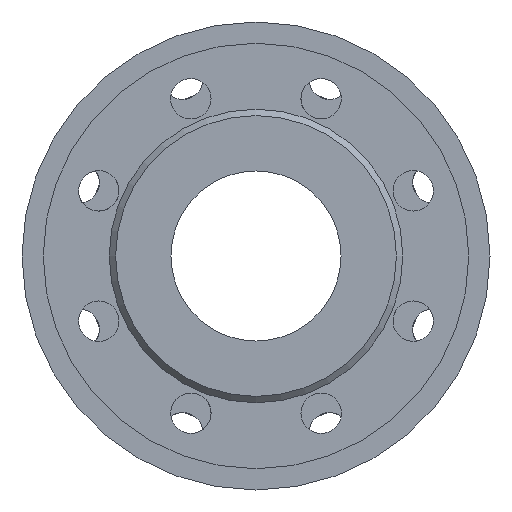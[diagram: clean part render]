
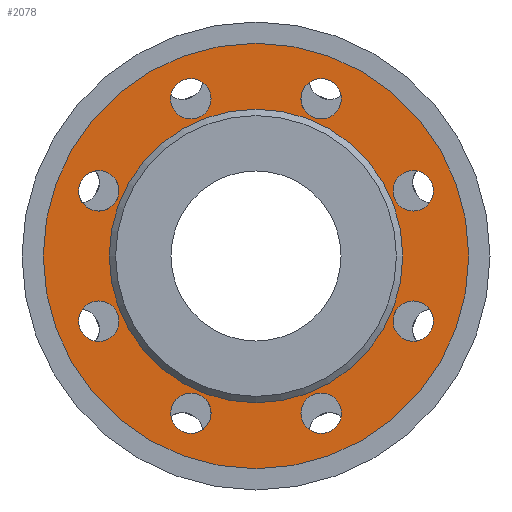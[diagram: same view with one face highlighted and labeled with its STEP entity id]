
A CAD part, left-side view. The second image highlights one B-rep face of the part: STEP entity #2078.
In plain terms, the highlighted planar face has unit normal (-1, 0, 0).
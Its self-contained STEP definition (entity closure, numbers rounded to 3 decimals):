
#24 = EDGE_LOOP ( 'NONE', ( #1020 ) ) ;
#43 = CIRCLE ( 'NONE', #1326, 9.5 ) ;
#97 = CIRCLE ( 'NONE', #1551, 9.5 ) ;
#103 = EDGE_LOOP ( 'NONE', ( #2317 ) ) ;
#135 = AXIS2_PLACEMENT_3D ( 'NONE', #1415, #259, #821 ) ;
#141 = PLANE ( 'NONE',  #1657 ) ;
#189 = CARTESIAN_POINT ( 'NONE',  ( 3., 30.615, -73.91 ) ) ;
#218 = EDGE_CURVE ( 'NONE', #1730, #1730, #1291, .T. ) ;
#231 = EDGE_LOOP ( 'NONE', ( #481 ) ) ;
#259 = DIRECTION ( 'NONE',  ( -1., 0., 0. ) ) ;
#270 = CARTESIAN_POINT ( 'NONE',  ( 3., 30.615, 73.91 ) ) ;
#315 = DIRECTION ( 'NONE',  ( -1., 0., 0. ) ) ;
#317 = EDGE_LOOP ( 'NONE', ( #2055 ) ) ;
#339 = CARTESIAN_POINT ( 'NONE',  ( 3., -83.41, 30.615 ) ) ;
#343 = EDGE_LOOP ( 'NONE', ( #2187 ) ) ;
#364 = EDGE_LOOP ( 'NONE', ( #1081 ) ) ;
#381 = VERTEX_POINT ( 'NONE', #2239 ) ;
#396 = VERTEX_POINT ( 'NONE', #2570 ) ;
#481 = ORIENTED_EDGE ( 'NONE', *, *, #780, .F. ) ;
#531 = DIRECTION ( 'NONE',  ( 0., -0.707, -0.707 ) ) ;
#689 = FACE_BOUND ( 'NONE', #343, .T. ) ;
#715 = CARTESIAN_POINT ( 'NONE',  ( 3., 69., 0. ) ) ;
#735 = EDGE_CURVE ( 'NONE', #1186, #1186, #2515, .T. ) ;
#736 = DIRECTION ( 'NONE',  ( 0., 0.707, 0.707 ) ) ;
#740 = VERTEX_POINT ( 'NONE', #986 ) ;
#780 = EDGE_CURVE ( 'NONE', #396, #396, #2300, .T. ) ;
#812 = DIRECTION ( 'NONE',  ( -1., 0., 0. ) ) ;
#814 = DIRECTION ( 'NONE',  ( 0., 0., 1. ) ) ;
#819 = EDGE_CURVE ( 'NONE', #2362, #2362, #97, .T. ) ;
#821 = DIRECTION ( 'NONE',  ( 0., -1., 0. ) ) ;
#830 = CARTESIAN_POINT ( 'NONE',  ( 3., -30.615, -83.41 ) ) ;
#844 = CARTESIAN_POINT ( 'NONE',  ( 3., 0., 69. ) ) ;
#865 = EDGE_LOOP ( 'NONE', ( #2017 ) ) ;
#883 = DIRECTION ( 'NONE',  ( -1., 0., 0. ) ) ;
#885 = FACE_BOUND ( 'NONE', #2063, .T. ) ;
#896 = FACE_BOUND ( 'NONE', #1648, .T. ) ;
#924 = AXIS2_PLACEMENT_3D ( 'NONE', #270, #1253, #1851 ) ;
#931 = AXIS2_PLACEMENT_3D ( 'NONE', #1296, #315, #1891 ) ;
#935 = EDGE_CURVE ( 'NONE', #2166, #2166, #1838, .T. ) ;
#938 = FACE_BOUND ( 'NONE', #317, .T. ) ;
#975 = CARTESIAN_POINT ( 'NONE',  ( 3., 0., 100. ) ) ;
#986 = CARTESIAN_POINT ( 'NONE',  ( 3., 37.332, -80.628 ) ) ;
#1020 = ORIENTED_EDGE ( 'NONE', *, *, #819, .F. ) ;
#1071 = EDGE_CURVE ( 'NONE', #740, #740, #2258, .T. ) ;
#1081 = ORIENTED_EDGE ( 'NONE', *, *, #735, .F. ) ;
#1084 = DIRECTION ( 'NONE',  ( -1., 0., 0. ) ) ;
#1090 = FACE_BOUND ( 'NONE', #364, .T. ) ;
#1102 = DIRECTION ( 'NONE',  ( 0., 0., -1. ) ) ;
#1133 = CARTESIAN_POINT ( 'NONE',  ( 3., 83.41, -30.615 ) ) ;
#1186 = VERTEX_POINT ( 'NONE', #339 ) ;
#1237 = EDGE_CURVE ( 'NONE', #381, #381, #2430, .T. ) ;
#1253 = DIRECTION ( 'NONE',  ( -1., 0., 0. ) ) ;
#1269 = CARTESIAN_POINT ( 'NONE',  ( 3., -73.91, -30.615 ) ) ;
#1291 = CIRCLE ( 'NONE', #2513, 100. ) ;
#1296 = CARTESIAN_POINT ( 'NONE',  ( 3., 73.91, -30.615 ) ) ;
#1321 = ORIENTED_EDGE ( 'NONE', *, *, #935, .F. ) ;
#1326 = AXIS2_PLACEMENT_3D ( 'NONE', #2299, #1084, #736 ) ;
#1389 = DIRECTION ( 'NONE',  ( -1., 0., 0. ) ) ;
#1415 = CARTESIAN_POINT ( 'NONE',  ( 3., -73.91, 30.615 ) ) ;
#1520 = DIRECTION ( 'NONE',  ( -1., 0., 0. ) ) ;
#1521 = FACE_BOUND ( 'NONE', #24, .T. ) ;
#1551 = AXIS2_PLACEMENT_3D ( 'NONE', #1269, #883, #531 ) ;
#1585 = CARTESIAN_POINT ( 'NONE',  ( 3., -80.628, -37.332 ) ) ;
#1599 = VERTEX_POINT ( 'NONE', #844 ) ;
#1607 = EDGE_CURVE ( 'NONE', #2410, #2410, #2500, .T. ) ;
#1637 = CARTESIAN_POINT ( 'NONE',  ( 3., 80.628, 37.332 ) ) ;
#1648 = EDGE_LOOP ( 'NONE', ( #1321 ) ) ;
#1657 = AXIS2_PLACEMENT_3D ( 'NONE', #715, #2533, #1102 ) ;
#1661 = CIRCLE ( 'NONE', #1905, 69. ) ;
#1730 = VERTEX_POINT ( 'NONE', #975 ) ;
#1757 = EDGE_CURVE ( 'NONE', #1599, #1599, #1661, .T. ) ;
#1838 = CIRCLE ( 'NONE', #931, 9.5 ) ;
#1851 = DIRECTION ( 'NONE',  ( 0., 0., 1. ) ) ;
#1882 = FACE_BOUND ( 'NONE', #865, .T. ) ;
#1891 = DIRECTION ( 'NONE',  ( 0., 1., 0. ) ) ;
#1903 = FACE_BOUND ( 'NONE', #231, .T. ) ;
#1905 = AXIS2_PLACEMENT_3D ( 'NONE', #2527, #812, #2402 ) ;
#1951 = EDGE_LOOP ( 'NONE', ( #2508 ) ) ;
#1970 = ORIENTED_EDGE ( 'NONE', *, *, #2387, .F. ) ;
#2017 = ORIENTED_EDGE ( 'NONE', *, *, #1607, .F. ) ;
#2050 = DIRECTION ( 'NONE',  ( 0., 0., -1. ) ) ;
#2055 = ORIENTED_EDGE ( 'NONE', *, *, #1237, .F. ) ;
#2063 = EDGE_LOOP ( 'NONE', ( #1970 ) ) ;
#2078 = ADVANCED_FACE ( 'NONE', ( #1903, #1090, #1521, #1882, #689, #896, #885, #938, #2087, #2279 ), #141, .F. ) ;
#2087 = FACE_BOUND ( 'NONE', #1951, .T. ) ;
#2095 = AXIS2_PLACEMENT_3D ( 'NONE', #2426, #1520, #2098 ) ;
#2098 = DIRECTION ( 'NONE',  ( 0., -0.707, 0.707 ) ) ;
#2134 = AXIS2_PLACEMENT_3D ( 'NONE', #189, #1389, #2188 ) ;
#2166 = VERTEX_POINT ( 'NONE', #1133 ) ;
#2172 = DIRECTION ( 'NONE',  ( -1., 0., 0. ) ) ;
#2187 = ORIENTED_EDGE ( 'NONE', *, *, #1071, .F. ) ;
#2188 = DIRECTION ( 'NONE',  ( 0., 0.707, -0.707 ) ) ;
#2215 = VERTEX_POINT ( 'NONE', #1637 ) ;
#2239 = CARTESIAN_POINT ( 'NONE',  ( 3., 30.615, 83.41 ) ) ;
#2258 = CIRCLE ( 'NONE', #2134, 9.5 ) ;
#2279 = FACE_OUTER_BOUND ( 'NONE', #103, .T. ) ;
#2299 = CARTESIAN_POINT ( 'NONE',  ( 3., 73.91, 30.615 ) ) ;
#2300 = CIRCLE ( 'NONE', #2095, 9.5 ) ;
#2317 = ORIENTED_EDGE ( 'NONE', *, *, #218, .T. ) ;
#2362 = VERTEX_POINT ( 'NONE', #1585 ) ;
#2377 = AXIS2_PLACEMENT_3D ( 'NONE', #2495, #2484, #2050 ) ;
#2387 = EDGE_CURVE ( 'NONE', #2215, #2215, #43, .T. ) ;
#2402 = DIRECTION ( 'NONE',  ( 0., 0., 1. ) ) ;
#2410 = VERTEX_POINT ( 'NONE', #830 ) ;
#2426 = CARTESIAN_POINT ( 'NONE',  ( 3., -30.615, 73.91 ) ) ;
#2430 = CIRCLE ( 'NONE', #924, 9.5 ) ;
#2484 = DIRECTION ( 'NONE',  ( -1., 0., 0. ) ) ;
#2495 = CARTESIAN_POINT ( 'NONE',  ( 3., -30.615, -73.91 ) ) ;
#2500 = CIRCLE ( 'NONE', #2377, 9.5 ) ;
#2508 = ORIENTED_EDGE ( 'NONE', *, *, #1757, .F. ) ;
#2513 = AXIS2_PLACEMENT_3D ( 'NONE', #2551, #2172, #814 ) ;
#2515 = CIRCLE ( 'NONE', #135, 9.5 ) ;
#2527 = CARTESIAN_POINT ( 'NONE',  ( 3., 0., 0. ) ) ;
#2533 = DIRECTION ( 'NONE',  ( 1., 0., 0. ) ) ;
#2551 = CARTESIAN_POINT ( 'NONE',  ( 3., 0., 0. ) ) ;
#2570 = CARTESIAN_POINT ( 'NONE',  ( 3., -37.332, 80.628 ) ) ;
